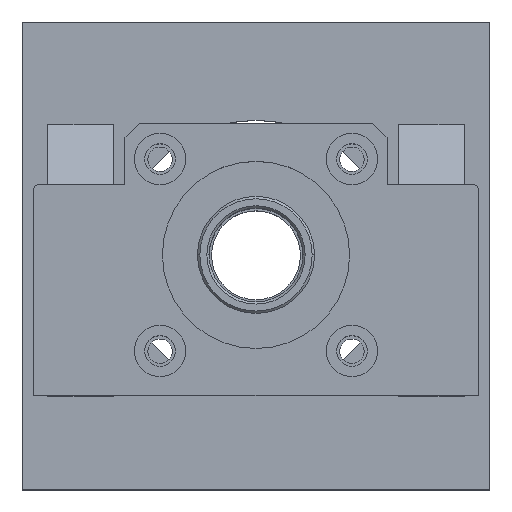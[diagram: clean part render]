
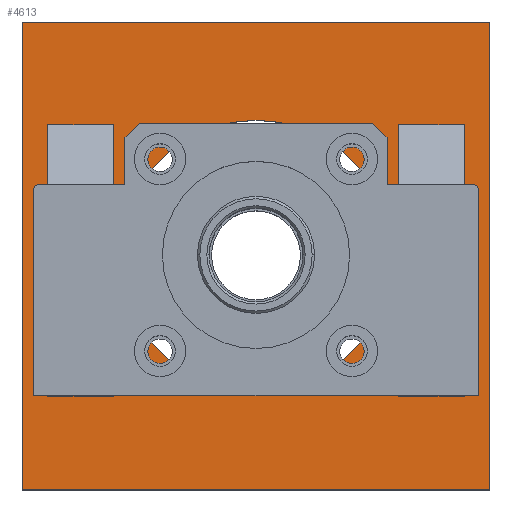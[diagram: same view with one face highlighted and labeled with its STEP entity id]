
A CAD part, top view. The second image highlights one B-rep face of the part: STEP entity #4613.
In plain terms, the highlighted planar face has unit normal (0, 0, 1).
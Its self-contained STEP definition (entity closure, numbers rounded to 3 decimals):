
#2350=DIRECTION('',(1.,0.,0.));
#2351=VECTOR('',#2350,14.);
#2352=CARTESIAN_POINT('',(-44.5,-30.,89.));
#2353=LINE('',#2352,#2351);
#2394=DIRECTION('',(1.,0.,0.));
#2395=VECTOR('',#2394,14.);
#2396=CARTESIAN_POINT('',(30.5,-30.,89.));
#2397=LINE('',#2396,#2395);
#2616=DIRECTION('',(1.,0.,0.));
#2617=VECTOR('',#2616,14.);
#2618=CARTESIAN_POINT('',(30.5,28.,89.));
#2619=LINE('',#2618,#2617);
#2620=CARTESIAN_POINT('',(0.,0.,89.));
#2621=DIRECTION('',(0.,0.,-1.));
#2622=DIRECTION('',(-1.,0.,0.));
#2623=AXIS2_PLACEMENT_3D('',#2620,#2621,#2622);
#2625=CARTESIAN_POINT('',(0.,0.,89.));
#2626=DIRECTION('',(0.,0.,-1.));
#2627=DIRECTION('',(1.,0.,0.));
#2628=AXIS2_PLACEMENT_3D('',#2625,#2626,#2627);
#2630=DIRECTION('',(0.,1.,0.));
#2631=VECTOR('',#2630,58.);
#2632=CARTESIAN_POINT('',(-44.5,-30.,89.));
#2633=LINE('',#2632,#2631);
#2634=DIRECTION('',(0.,-1.,0.));
#2635=VECTOR('',#2634,58.);
#2636=CARTESIAN_POINT('',(-30.5,28.,89.));
#2637=LINE('',#2636,#2635);
#2638=DIRECTION('',(1.,0.,0.));
#2639=VECTOR('',#2638,14.);
#2640=CARTESIAN_POINT('',(-44.5,28.,89.));
#2641=LINE('',#2640,#2639);
#2650=DIRECTION('',(0.,1.,0.));
#2651=VECTOR('',#2650,58.);
#2652=CARTESIAN_POINT('',(44.5,-30.,89.));
#2653=LINE('',#2652,#2651);
#3492=DIRECTION('',(0.,-1.,0.));
#3493=VECTOR('',#3492,58.);
#3494=CARTESIAN_POINT('',(30.5,28.,89.));
#3495=LINE('',#3494,#3493);
#3536=DIRECTION('',(0.,1.,0.));
#3537=VECTOR('',#3536,100.);
#3538=CARTESIAN_POINT('',(-50.,-50.,89.));
#3539=LINE('',#3538,#3537);
#3544=DIRECTION('',(-1.,0.,0.));
#3545=VECTOR('',#3544,100.);
#3546=CARTESIAN_POINT('',(50.,-50.,89.));
#3547=LINE('',#3546,#3545);
#3552=DIRECTION('',(0.,-1.,0.));
#3553=VECTOR('',#3552,100.);
#3554=CARTESIAN_POINT('',(50.,50.,89.));
#3555=LINE('',#3554,#3553);
#3560=DIRECTION('',(1.,0.,0.));
#3561=VECTOR('',#3560,100.);
#3562=CARTESIAN_POINT('',(-50.,50.,89.));
#3563=LINE('',#3562,#3561);
#3774=CARTESIAN_POINT('',(30.5,28.,89.));
#3775=CARTESIAN_POINT('',(44.5,28.,89.));
#3776=VERTEX_POINT('',#3774);
#3777=VERTEX_POINT('',#3775);
#3778=CARTESIAN_POINT('',(44.5,-30.,89.));
#3779=VERTEX_POINT('',#3778);
#3780=CARTESIAN_POINT('',(30.5,-30.,89.));
#3781=VERTEX_POINT('',#3780);
#3782=CARTESIAN_POINT('',(-50.,-50.,89.));
#3783=CARTESIAN_POINT('',(-50.,50.,89.));
#3784=VERTEX_POINT('',#3782);
#3785=VERTEX_POINT('',#3783);
#3786=CARTESIAN_POINT('',(50.,-50.,89.));
#3787=VERTEX_POINT('',#3786);
#3788=CARTESIAN_POINT('',(50.,50.,89.));
#3789=VERTEX_POINT('',#3788);
#3790=CARTESIAN_POINT('',(-44.5,-30.,89.));
#3791=CARTESIAN_POINT('',(-44.5,28.,89.));
#3792=VERTEX_POINT('',#3790);
#3793=VERTEX_POINT('',#3791);
#3794=CARTESIAN_POINT('',(-30.5,28.,89.));
#3795=VERTEX_POINT('',#3794);
#3796=CARTESIAN_POINT('',(-30.5,-30.,89.));
#3797=VERTEX_POINT('',#3796);
#4013=CARTESIAN_POINT('',(29.,0.,89.));
#4015=VERTEX_POINT('',#4013);
#4017=CARTESIAN_POINT('',(-29.,0.,89.));
#4019=VERTEX_POINT('',#4017);
#4575=CARTESIAN_POINT('',(0.,0.,89.));
#4576=DIRECTION('',(0.,0.,-1.));
#4577=DIRECTION('',(-1.,0.,0.));
#4578=AXIS2_PLACEMENT_3D('',#4575,#4576,#4577);
#4579=PLANE('',#4578);
#4581=ORIENTED_EDGE('',*,*,#4580,.T.);
#4583=ORIENTED_EDGE('',*,*,#4582,.T.);
#4585=ORIENTED_EDGE('',*,*,#4584,.T.);
#4587=ORIENTED_EDGE('',*,*,#4586,.T.);
#4588=EDGE_LOOP('',(#4581,#4583,#4585,#4587));
#4589=FACE_OUTER_BOUND('',#4588,.F.);
#4591=ORIENTED_EDGE('',*,*,#4590,.F.);
#4593=ORIENTED_EDGE('',*,*,#4592,.T.);
#4594=ORIENTED_EDGE('',*,*,#4295,.T.);
#4596=ORIENTED_EDGE('',*,*,#4595,.T.);
#4597=EDGE_LOOP('',(#4591,#4593,#4594,#4596));
#4598=FACE_BOUND('',#4597,.F.);
#4600=ORIENTED_EDGE('',*,*,#4599,.F.);
#4602=ORIENTED_EDGE('',*,*,#4601,.F.);
#4603=EDGE_LOOP('',(#4600,#4602));
#4604=FACE_BOUND('',#4603,.F.);
#4606=ORIENTED_EDGE('',*,*,#4605,.F.);
#4607=ORIENTED_EDGE('',*,*,#4263,.T.);
#4608=ORIENTED_EDGE('',*,*,#4564,.F.);
#4610=ORIENTED_EDGE('',*,*,#4609,.F.);
#4611=EDGE_LOOP('',(#4606,#4607,#4608,#4610));
#4612=FACE_BOUND('',#4611,.F.);
#2624=CIRCLE('',#2623,29.);
#2629=CIRCLE('',#2628,29.);
#4263=EDGE_CURVE('',#3792,#3797,#2353,.T.);
#4295=EDGE_CURVE('',#3781,#3779,#2397,.T.);
#4564=EDGE_CURVE('',#3795,#3797,#2637,.T.);
#4580=EDGE_CURVE('',#3784,#3785,#3539,.T.);
#4582=EDGE_CURVE('',#3785,#3789,#3563,.T.);
#4584=EDGE_CURVE('',#3789,#3787,#3555,.T.);
#4586=EDGE_CURVE('',#3787,#3784,#3547,.T.);
#4590=EDGE_CURVE('',#3776,#3777,#2619,.T.);
#4592=EDGE_CURVE('',#3776,#3781,#3495,.T.);
#4595=EDGE_CURVE('',#3779,#3777,#2653,.T.);
#4599=EDGE_CURVE('',#4019,#4015,#2624,.T.);
#4601=EDGE_CURVE('',#4015,#4019,#2629,.T.);
#4605=EDGE_CURVE('',#3792,#3793,#2633,.T.);
#4609=EDGE_CURVE('',#3793,#3795,#2641,.T.);
#4613=ADVANCED_FACE('',(#4589,#4598,#4604,#4612),#4579,.F.);
